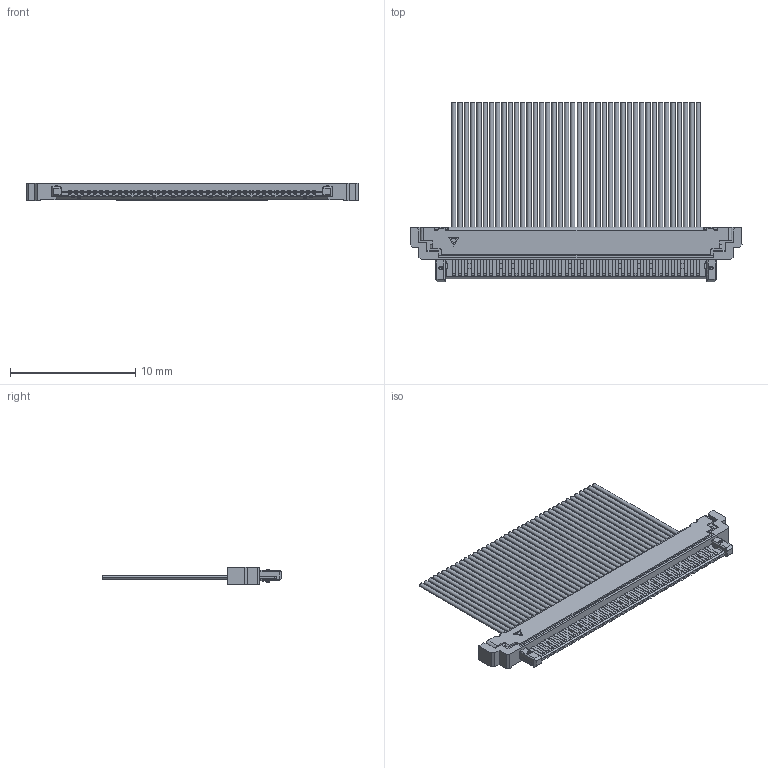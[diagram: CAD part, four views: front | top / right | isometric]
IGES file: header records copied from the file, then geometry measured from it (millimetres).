
Start section: Elysium IGES Interface
Global section: file name: 73H\\Honsha3\ko_gi\USERS\鸐壀\(嶌嬈拞)\SSL20-仩仩SB_3D\P3A798_SSL20-40SB.igs; native system: Creo Elements/Direct Modeling 20.2  28-Feb-2019; preprocessor: Creo Element/Direct IGES_3D V2.2; author: Unknown; organization: Unknown; date: 20220113.105921; units: millimetre
Bounding box: 26.5 x 14.35 x 1.4 mm (x, y, z)
Volume: 137.5 mm3; surface area: 740.9 mm2
Topology: 1 solids, 1 shells, 981 faces, 2609 edges, 1704 vertices
Faces by surface type: bspline 981
